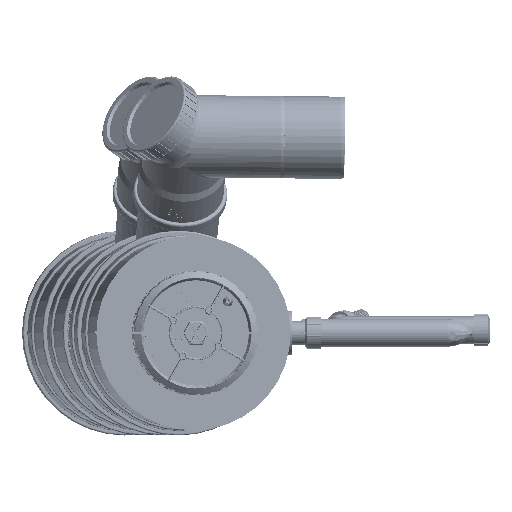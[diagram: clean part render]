
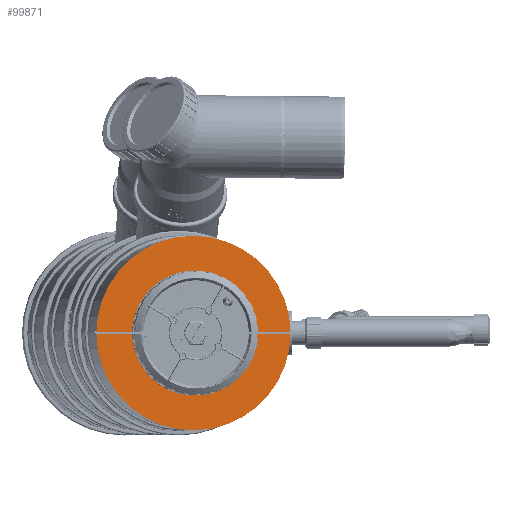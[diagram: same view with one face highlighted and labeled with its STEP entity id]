
A CAD part, left-side view. The second image highlights one B-rep face of the part: STEP entity #99871.
In plain terms, the highlighted planar face has unit normal (-0.999, -0.052, 0) as drawn and (0, 1, 0) by its records, which use the part's own axes.
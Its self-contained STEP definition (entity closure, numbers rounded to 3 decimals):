
#99676=CARTESIAN_POINT('',(0.,10.,0.));
#99677=DIRECTION('',(0.,1.,0.));
#99678=DIRECTION('',(1.,0.,0.));
#99679=AXIS2_PLACEMENT_3D('',#99676,#99677,#99678);
#99685=CARTESIAN_POINT('',(0.,10.,0.));
#99686=DIRECTION('',(0.,-1.,0.));
#99687=DIRECTION('',(1.,0.,0.));
#99688=AXIS2_PLACEMENT_3D('',#99685,#99686,#99687);
#99694=CARTESIAN_POINT('',(0.,10.,0.));
#99695=DIRECTION('',(0.,1.,0.));
#99696=DIRECTION('',(1.,0.,0.));
#99697=AXIS2_PLACEMENT_3D('',#99694,#99695,#99696);
#99699=CARTESIAN_POINT('',(0.,10.,0.));
#99700=DIRECTION('',(0.,-1.,0.));
#99701=DIRECTION('',(1.,0.,0.));
#99702=AXIS2_PLACEMENT_3D('',#99699,#99700,#99701);
#99787=CARTESIAN_POINT('',(130.,10.,0.));
#99789=VERTEX_POINT('',#99787);
#99790=CARTESIAN_POINT('',(80.25,10.,0.));
#99792=VERTEX_POINT('',#99790);
#99803=CARTESIAN_POINT('',(-130.,10.,0.));
#99805=VERTEX_POINT('',#99803);
#99806=CARTESIAN_POINT('',(-80.25,10.,0.));
#99808=VERTEX_POINT('',#99806);
#99856=CARTESIAN_POINT('',(0.,10.,0.));
#99857=DIRECTION('',(0.,1.,0.));
#99858=DIRECTION('',(1.,0.,0.));
#99859=AXIS2_PLACEMENT_3D('',#99856,#99857,#99858);
#99860=PLANE('202',#99859);
#99862=ORIENTED_EDGE('203',*,*,#99861,.F.);
#99864=ORIENTED_EDGE('237',*,*,#99863,.T.);
#99865=EDGE_LOOP('202',(#99862,#99864));
#99866=FACE_OUTER_BOUND('202',#99865,.F.);
#99867=ORIENTED_EDGE('239',*,*,#99849,.F.);
#99868=ORIENTED_EDGE('205',*,*,#99838,.T.);
#99869=EDGE_LOOP('202',(#99867,#99868));
#99870=FACE_BOUND('202',#99869,.F.);
#99680=CIRCLE('205',#99679,80.25);
#99689=CIRCLE('239',#99688,80.25);
#99698=CIRCLE('203',#99697,130.);
#99703=CIRCLE('237',#99702,130.);
#99838=EDGE_CURVE('205',#99792,#99808,#99680,.T.);
#99849=EDGE_CURVE('239',#99792,#99808,#99689,.T.);
#99861=EDGE_CURVE('203',#99789,#99805,#99698,.T.);
#99863=EDGE_CURVE('237',#99789,#99805,#99703,.T.);
#99871=ADVANCED_FACE('202',(#99866,#99870),#99860,.T.);
